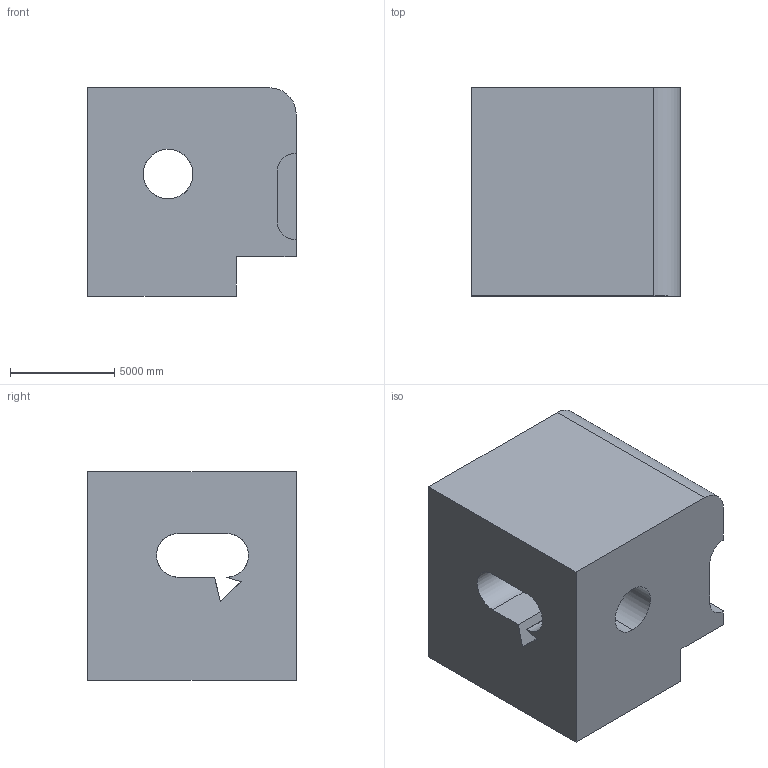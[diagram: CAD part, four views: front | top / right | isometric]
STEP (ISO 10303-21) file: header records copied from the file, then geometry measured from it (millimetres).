
FILE_DESCRIPTION (( 'STEP AP203' ), '1' );
FILE_NAME ('573.STEP', '2022-07-29T11:53:17', ( 'user' ), ( '' ), 'SwSTEP 2.0', 'SolidWorks 2021', '' );
FILE_SCHEMA (( 'CONFIG_CONTROL_DESIGN' ));
Length unit declared in the file: centimetre
Products named in the file (1): 573
Bounding box: 10000 x 10000 x 10000 mm (x, y, z)
Volume: 815616892934.9 mm3; surface area: 734097898.8 mm2
Topology: 1 solids, 1 shells, 29 faces, 87 edges, 58 vertices
Faces by surface type: plane 20, cylinder 9
Entity records: 1778 total; most frequent: CARTESIAN_POINT 915, ORIENTED_EDGE 174, DIRECTION 151, EDGE_CURVE 87, LINE 63, VECTOR 63, VERTEX_POINT 58, AXIS2_PLACEMENT_3D 44
